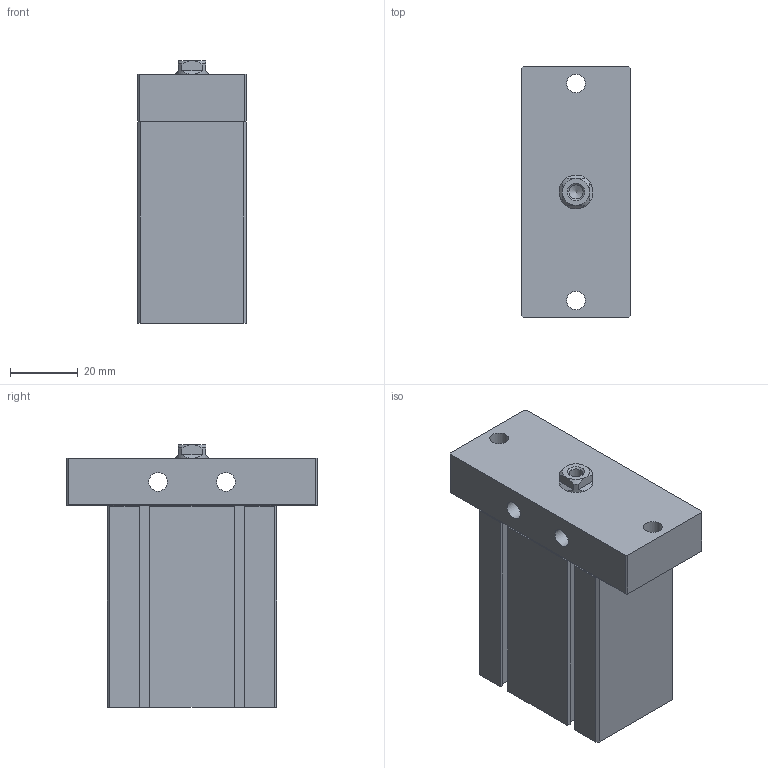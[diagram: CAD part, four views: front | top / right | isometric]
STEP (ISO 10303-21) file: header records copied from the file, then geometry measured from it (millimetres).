
FILE_DESCRIPTION((''),'2;1');
FILE_NAME('J:\3D電子目錄\氣缸\ND\ND\ND25-F\ND25x30-F.stp','2008-03-12T14:14:08',('66-2f-008'),(''),'Autodesk Inventor 11','Autodesk Inventor 11','');
FILE_SCHEMA(('AUTOMOTIVE_DESIGN { 1 0 10303 214 1 1 1 1 }'));
Length unit declared in the file: millimetre
Products named in the file (1): ND25-F
Bounding box: 32 x 74 x 77.5 mm (x, y, z)
Volume: 117964.8 mm3; surface area: 23741.1 mm2
Topology: 2 solids, 2 shells, 119 faces, 289 edges, 183 vertices
Faces by surface type: plane 79, bspline 16, cone 12, cylinder 11, torus 1
Full cylindrical faces by diameter (mm): 1.5 x2, 5.5 x2, 17 x1, 28 x1, 29.4 x1
Entity records: 3424 total; most frequent: CARTESIAN_POINT 784, DIRECTION 516, ORIENTED_EDGE 510, EDGE_CURVE 255, VECTOR 186, LINE 186, VERTEX_POINT 177, AXIS2_PLACEMENT_3D 165
